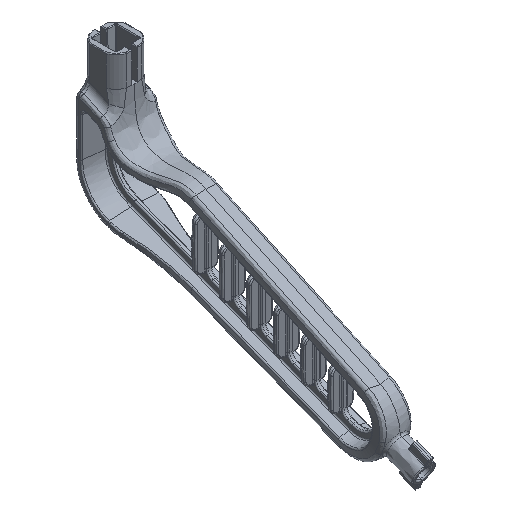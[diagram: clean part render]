
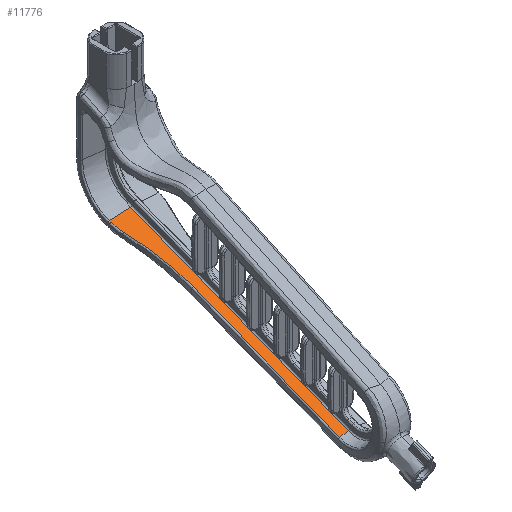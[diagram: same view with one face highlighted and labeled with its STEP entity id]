
A CAD part, isometric view. The second image highlights one B-rep face of the part: STEP entity #11776.
In plain terms, the highlighted planar face has unit normal (-0.087, -0.362, 0.928).
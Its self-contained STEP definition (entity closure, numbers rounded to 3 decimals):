
#1031 = DIRECTION ( 'NONE',  ( 0., 0.932, 0.363 ) ) ;
#1178 = ORIENTED_EDGE ( 'NONE', *, *, #38267, .T. ) ;
#1676 = VECTOR ( 'NONE', #1031, 1000. ) ;
#2655 = AXIS2_PLACEMENT_3D ( 'NONE', #32944, #25430, #21427 ) ;
#3159 = B_SPLINE_CURVE_WITH_KNOTS ( 'NONE', 3,
 ( #40147, #13344, #7277, #44663 ),
 .UNSPECIFIED., .F., .F.,
 ( 4, 4 ),
 ( 0.049, 0.881 ),
 .UNSPECIFIED. ) ;
#5146 = FACE_OUTER_BOUND ( 'NONE', #9773, .T. ) ;
#5745 = B_SPLINE_CURVE_WITH_KNOTS ( 'NONE', 3,
 ( #41862, #42108, #49395, #42837 ),
 .UNSPECIFIED., .F., .F.,
 ( 4, 4 ),
 ( 0., 0.062 ),
 .UNSPECIFIED. ) ;
#6018 = CARTESIAN_POINT ( 'NONE',  ( -1.456, -41.167, -31.959 ) ) ;
#7095 = EDGE_CURVE ( 'NONE', #29309, #31478, #11735, .T. ) ;
#7277 = CARTESIAN_POINT ( 'NONE',  ( -3.817, -41.287, -32.228 ) ) ;
#7707 = CARTESIAN_POINT ( 'NONE',  ( -9.544, 42.118, -0.25 ) ) ;
#7819 = CARTESIAN_POINT ( 'NONE',  ( -9.544, 44.247, 0.58 ) ) ;
#7974 = VERTEX_POINT ( 'NONE', #20044 ) ;
#8299 = VECTOR ( 'NONE', #29515, 1000. ) ;
#9773 = EDGE_LOOP ( 'NONE', ( #41407, #19581, #45367, #27178, #1178, #10163, #23052 ) ) ;
#10163 = ORIENTED_EDGE ( 'NONE', *, *, #7095, .T. ) ;
#11735 = B_SPLINE_CURVE_WITH_KNOTS ( 'NONE', 3,
 ( #31937, #40464, #39483, #12906, #28184, #47507, #13416, #32686 ),
 .UNSPECIFIED., .F., .F.,
 ( 4, 2, 2, 4 ),
 ( 0., 0.013, 0.019, 0.025 ),
 .UNSPECIFIED. ) ;
#11776 = ADVANCED_FACE ( 'NONE', ( #5146 ), #43497, .F. ) ;
#12533 = VERTEX_POINT ( 'NONE', #6018 ) ;
#12906 = CARTESIAN_POINT ( 'NONE',  ( -5.627, 25.875, -6.215 ) ) ;
#13344 = CARTESIAN_POINT ( 'NONE',  ( -2.637, -41.227, -32.094 ) ) ;
#13416 = CARTESIAN_POINT ( 'NONE',  ( -4.984, 18.035, -9.211 ) ) ;
#17821 = EDGE_CURVE ( 'NONE', #21882, #45789, #19837, .T. ) ;
#19581 = ORIENTED_EDGE ( 'NONE', *, *, #38879, .T. ) ;
#19837 = LINE ( 'NONE', #7819, #24253 ) ;
#20044 = CARTESIAN_POINT ( 'NONE',  ( -1.456, 43.99, 1.239 ) ) ;
#20172 = EDGE_CURVE ( 'NONE', #31478, #47446, #5745, .T. ) ;
#20735 = CARTESIAN_POINT ( 'NONE',  ( -9.544, 43.519, 0.296 ) ) ;
#21427 = DIRECTION ( 'NONE',  ( 0., 0.932, 0.363 ) ) ;
#21882 = VERTEX_POINT ( 'NONE', #38650 ) ;
#22745 = CARTESIAN_POINT ( 'NONE',  ( -8.849, 39.367, -1.257 ) ) ;
#23052 = ORIENTED_EDGE ( 'NONE', *, *, #20172, .T. ) ;
#24253 = VECTOR ( 'NONE', #38662, 1000. ) ;
#24988 = CARTESIAN_POINT ( 'NONE',  ( -10., 44.262, 0.543 ) ) ;
#25430 = DIRECTION ( 'NONE',  ( 0.087, 0.362, -0.928 ) ) ;
#26270 = CARTESIAN_POINT ( 'NONE',  ( -9.309, 40.714, -0.775 ) ) ;
#27178 = ORIENTED_EDGE ( 'NONE', *, *, #17821, .T. ) ;
#27619 = LINE ( 'NONE', #35376, #1676 ) ;
#28184 = CARTESIAN_POINT ( 'NONE',  ( -5.387, 23.918, -6.955 ) ) ;
#29309 = VERTEX_POINT ( 'NONE', #48815 ) ;
#29515 = DIRECTION ( 'NONE',  ( 0.996, -0.032, 0.081 ) ) ;
#31478 = VERTEX_POINT ( 'NONE', #38461 ) ;
#31937 = CARTESIAN_POINT ( 'NONE',  ( -8.849, 39.367, -1.257 ) ) ;
#32686 = CARTESIAN_POINT ( 'NONE',  ( -4.985, 16.069, -9.977 ) ) ;
#32944 = CARTESIAN_POINT ( 'NONE',  ( -10., 44.262, 0.543 ) ) ;
#33163 = EDGE_CURVE ( 'NONE', #12533, #47446, #3159, .T. ) ;
#33793 = CARTESIAN_POINT ( 'NONE',  ( -9.544, 43.519, 0.296 ) ) ;
#35376 = CARTESIAN_POINT ( 'NONE',  ( -1.456, 43.99, 1.239 ) ) ;
#38267 = EDGE_CURVE ( 'NONE', #45789, #29309, #42503, .T. ) ;
#38461 = CARTESIAN_POINT ( 'NONE',  ( -4.985, 16.069, -9.977 ) ) ;
#38650 = CARTESIAN_POINT ( 'NONE',  ( -9.544, 44.247, 0.58 ) ) ;
#38662 = DIRECTION ( 'NONE',  ( 0., -0.932, -0.363 ) ) ;
#38879 = EDGE_CURVE ( 'NONE', #12533, #7974, #27619, .T. ) ;
#39157 = CARTESIAN_POINT ( 'NONE',  ( -4.997, -41.346, -32.362 ) ) ;
#39483 = CARTESIAN_POINT ( 'NONE',  ( -6.595, 31.734, -4.021 ) ) ;
#40147 = CARTESIAN_POINT ( 'NONE',  ( -1.456, -41.167, -31.959 ) ) ;
#40464 = CARTESIAN_POINT ( 'NONE',  ( -7.559, 35.582, -2.612 ) ) ;
#40732 = EDGE_CURVE ( 'NONE', #21882, #7974, #48322, .T. ) ;
#41407 = ORIENTED_EDGE ( 'NONE', *, *, #33163, .F. ) ;
#41862 = CARTESIAN_POINT ( 'NONE',  ( -4.985, 16.069, -9.977 ) ) ;
#42108 = CARTESIAN_POINT ( 'NONE',  ( -4.996, -3.069, -17.439 ) ) ;
#42503 = B_SPLINE_CURVE_WITH_KNOTS ( 'NONE', 3,
 ( #33793, #7707, #26270, #22745 ),
 .UNSPECIFIED., .F., .F.,
 ( 4, 4 ),
 ( 0., 0.005 ),
 .UNSPECIFIED. ) ;
#42837 = CARTESIAN_POINT ( 'NONE',  ( -4.997, -41.346, -32.362 ) ) ;
#43497 = PLANE ( 'NONE',  #2655 ) ;
#44663 = CARTESIAN_POINT ( 'NONE',  ( -4.997, -41.346, -32.362 ) ) ;
#45367 = ORIENTED_EDGE ( 'NONE', *, *, #40732, .F. ) ;
#45789 = VERTEX_POINT ( 'NONE', #20735 ) ;
#47446 = VERTEX_POINT ( 'NONE', #39157 ) ;
#47507 = CARTESIAN_POINT ( 'NONE',  ( -5.065, 19.998, -8.453 ) ) ;
#48322 = LINE ( 'NONE', #24988, #8299 ) ;
#48815 = CARTESIAN_POINT ( 'NONE',  ( -8.849, 39.367, -1.257 ) ) ;
#49395 = CARTESIAN_POINT ( 'NONE',  ( -5., -22.207, -24.901 ) ) ;
